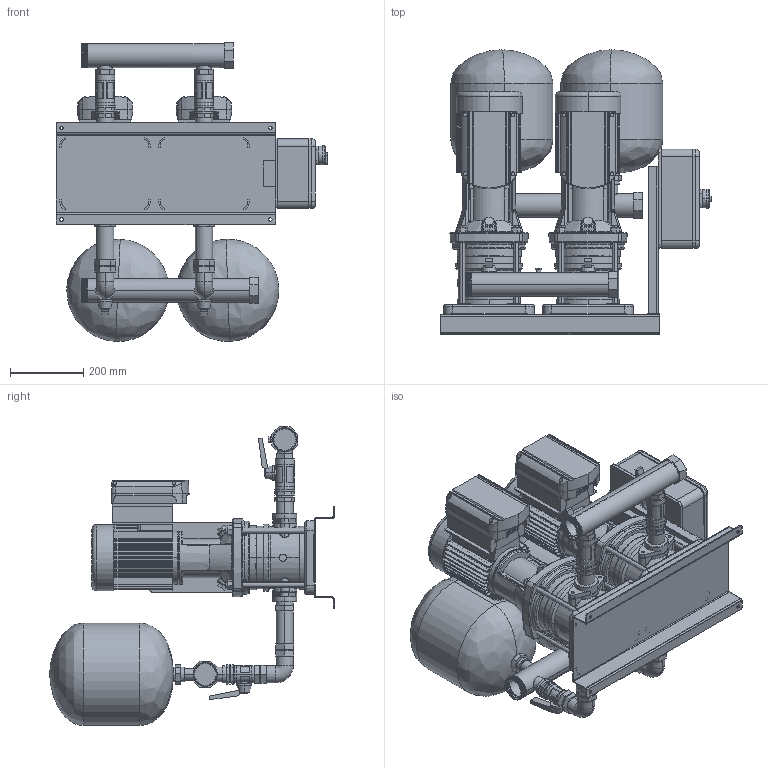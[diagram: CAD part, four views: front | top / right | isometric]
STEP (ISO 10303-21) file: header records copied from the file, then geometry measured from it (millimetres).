
FILE_DESCRIPTION (( 'STEP AP214' ), '1' );
FILE_NAME ('2SBI_10-4_TE_ZB00064958.STEP', '2022-07-17T21:45:10', ( '' ), ( '' ), 'SwSTEP 2.0', 'SolidWorks 2020', '' );
FILE_SCHEMA (( 'AUTOMOTIVE_DESIGN' ));
Length unit declared in the file: millimetre
Products named in the file (1): 2SBI_10-4_TE_ZB00064958
Bounding box: 742 x 776 x 815.52 mm (x, y, z)
Volume: 68937776 mm3; surface area: 4744680.5 mm2
Topology: 52 solids, 69 shells, 2998 faces, 7570 edges, 4797 vertices
Faces by surface type: plane 1186, cylinder 1051, bspline 424, torus 191, cone 136, sphere 10
Entity records: 171577 total; most frequent: CARTESIAN_POINT 69794, ORIENTED_EDGE 15084, DIRECTION 12896, EDGE_CURVE 7542, VERTEX_POINT 4797, AXIS2_PLACEMENT_3D 4769, LINE 3358, VECTOR 3358
